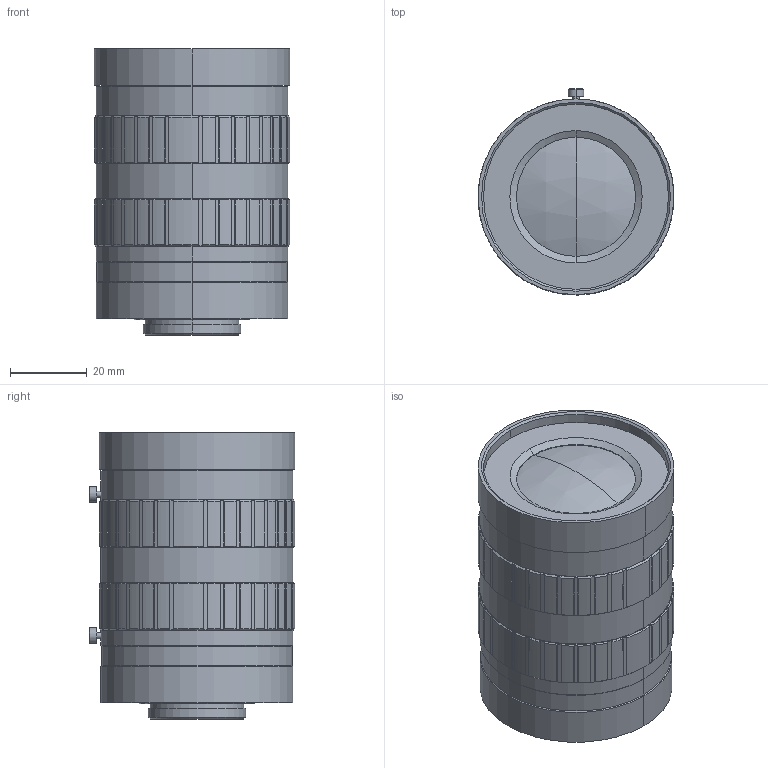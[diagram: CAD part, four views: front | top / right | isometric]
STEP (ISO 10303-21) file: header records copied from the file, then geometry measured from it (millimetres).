
FILE_DESCRIPTION (( 'STEP AP214' ), '1' );
FILE_NAME ('HF16SA-1_3D_Modeling.STEP', '2016-06-07T04:19:17', ( '富士フイルム株式会社' ), ( '富士フイルム株式会社' ), 'SwSTEP 2.0', 'SolidWorks 2014', '' );
FILE_SCHEMA (( 'AUTOMOTIVE_DESIGN' ));
Length unit declared in the file: millimetre
Products named in the file (1): HF16SA-1_3D_Modeling
Bounding box: 51 x 53.6 x 74.52 mm (x, y, z)
Volume: 135075.8 mm3; surface area: 17964.6 mm2
Topology: 1 solids, 1 shells, 346 faces, 950 edges, 622 vertices
Faces by surface type: cylinder 166, plane 146, cone 30, sphere 4
Entity records: 11500 total; most frequent: CARTESIAN_POINT 2839, ORIENTED_EDGE 1900, DIRECTION 1748, EDGE_CURVE 950, AXIS2_PLACEMENT_3D 711, VERTEX_POINT 622, CIRCLE 364, EDGE_LOOP 362
